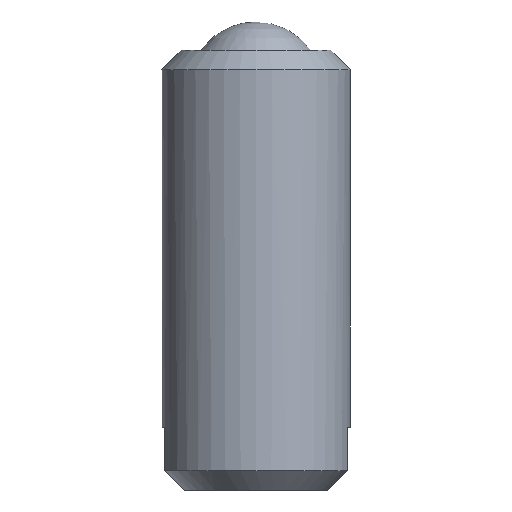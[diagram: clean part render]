
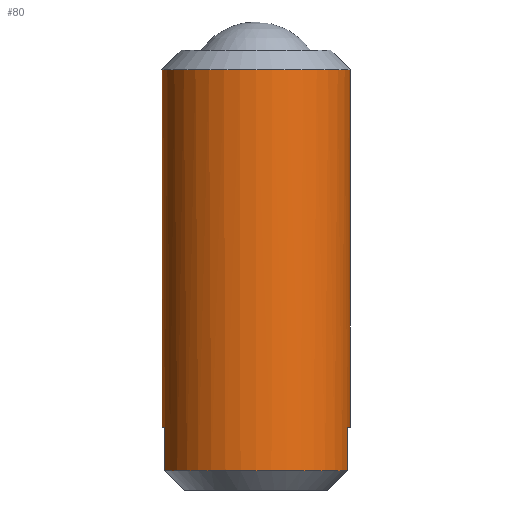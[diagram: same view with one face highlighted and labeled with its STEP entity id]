
A CAD part, front view. The second image highlights one B-rep face of the part: STEP entity #80.
In plain terms, the highlighted cylindrical face has radius 3 mm (diameter 6 mm), a full revolution.
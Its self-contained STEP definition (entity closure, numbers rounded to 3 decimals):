
#80 = ADVANCED_FACE( '', ( #100, #101 ), #102, .T. );
#100 = FACE_OUTER_BOUND( '', #126, .T. );
#101 = FACE_OUTER_BOUND( '', #127, .T. );
#102 = CYLINDRICAL_SURFACE( '', #128, 3. );
#126 = EDGE_LOOP( '', ( #172 ) );
#127 = EDGE_LOOP( '', ( #173, #174, #175, #176, #177, #178, #179, #180 ) );
#128 = AXIS2_PLACEMENT_3D( '', #181, #182, #183 );
#172 = ORIENTED_EDGE( '', *, *, #230, .F. );
#173 = ORIENTED_EDGE( '', *, *, #224, .F. );
#174 = ORIENTED_EDGE( '', *, *, #231, .T. );
#175 = ORIENTED_EDGE( '', *, *, #216, .F. );
#176 = ORIENTED_EDGE( '', *, *, #232, .T. );
#177 = ORIENTED_EDGE( '', *, *, #218, .F. );
#178 = ORIENTED_EDGE( '', *, *, #233, .T. );
#179 = ORIENTED_EDGE( '', *, *, #222, .F. );
#180 = ORIENTED_EDGE( '', *, *, #234, .T. );
#181 = CARTESIAN_POINT( '', ( 0., 0., 0.9 ) );
#182 = DIRECTION( '', ( 0., 0., -1. ) );
#183 = DIRECTION( '', ( 1., 0., 0. ) );
#216 = EDGE_CURVE( '', #238, #240, #241, .T. );
#218 = EDGE_CURVE( '', #242, #244, #245, .F. );
#222 = EDGE_CURVE( '', #250, #252, #253, .T. );
#224 = EDGE_CURVE( '', #254, #256, #257, .F. );
#230 = EDGE_CURVE( '', #265, #265, #266, .T. );
#231 = EDGE_CURVE( '', #254, #240, #267, .T. );
#232 = EDGE_CURVE( '', #238, #244, #268, .T. );
#233 = EDGE_CURVE( '', #242, #252, #269, .T. );
#234 = EDGE_CURVE( '', #250, #256, #270, .T. );
#238 = VERTEX_POINT( '', #274 );
#240 = VERTEX_POINT( '', #279 );
#241 = LINE( '', #280, #281 );
#242 = VERTEX_POINT( '', #282 );
#244 = VERTEX_POINT( '', #285 );
#245 = LINE( '', #286, #287 );
#250 = VERTEX_POINT( '', #296 );
#252 = VERTEX_POINT( '', #301 );
#253 = LINE( '', #302, #303 );
#254 = VERTEX_POINT( '', #304 );
#256 = VERTEX_POINT( '', #307 );
#257 = LINE( '', #308, #309 );
#265 = VERTEX_POINT( '', #321 );
#266 = CIRCLE( '', #322, 3. );
#267 = CIRCLE( '', #323, 3. );
#268 = CIRCLE( '', #324, 3. );
#269 = CIRCLE( '', #325, 3. );
#270 = CIRCLE( '', #326, 3. );
#274 = CARTESIAN_POINT( '', ( -2.905, -0.75, -13.387 ) );
#279 = CARTESIAN_POINT( '', ( -2.905, -0.75, -12. ) );
#280 = CARTESIAN_POINT( '', ( -2.905, -0.75, 0.9 ) );
#281 = VECTOR( '', #329, 1000. );
#282 = CARTESIAN_POINT( '', ( 2.905, -0.75, -12. ) );
#285 = CARTESIAN_POINT( '', ( 2.905, -0.75, -13.387 ) );
#286 = CARTESIAN_POINT( '', ( 2.905, -0.75, 0.9 ) );
#287 = VECTOR( '', #331, 1000. );
#296 = CARTESIAN_POINT( '', ( 2.905, 0.75, -13.387 ) );
#301 = CARTESIAN_POINT( '', ( 2.905, 0.75, -12. ) );
#302 = CARTESIAN_POINT( '', ( 2.905, 0.75, 0.9 ) );
#303 = VECTOR( '', #333, 1000. );
#304 = CARTESIAN_POINT( '', ( -2.905, 0.75, -12. ) );
#307 = CARTESIAN_POINT( '', ( -2.905, 0.75, -13.387 ) );
#308 = CARTESIAN_POINT( '', ( -2.905, 0.75, 0.9 ) );
#309 = VECTOR( '', #335, 1000. );
#321 = CARTESIAN_POINT( '', ( 3., 0., -0.613 ) );
#322 = AXIS2_PLACEMENT_3D( '', #343, #344, #345 );
#323 = AXIS2_PLACEMENT_3D( '', #346, #347, #348 );
#324 = AXIS2_PLACEMENT_3D( '', #349, #350, #351 );
#325 = AXIS2_PLACEMENT_3D( '', #352, #353, #354 );
#326 = AXIS2_PLACEMENT_3D( '', #355, #356, #357 );
#329 = DIRECTION( '', ( 0., 0., 1. ) );
#331 = DIRECTION( '', ( 0., 0., 1. ) );
#333 = DIRECTION( '', ( 0., 0., 1. ) );
#335 = DIRECTION( '', ( 0., 0., 1. ) );
#343 = CARTESIAN_POINT( '', ( 0., 0., -0.613 ) );
#344 = DIRECTION( '', ( 0., 0., 1. ) );
#345 = DIRECTION( '', ( 1., 0., 0. ) );
#346 = CARTESIAN_POINT( '', ( 0., 0., -12. ) );
#347 = DIRECTION( '', ( 0., 0., 1. ) );
#348 = DIRECTION( '', ( 1., 0., 0. ) );
#349 = CARTESIAN_POINT( '', ( 0., 0., -13.387 ) );
#350 = DIRECTION( '', ( 0., 0., 1. ) );
#351 = DIRECTION( '', ( 1., 0., 0. ) );
#352 = CARTESIAN_POINT( '', ( 0., 0., -12. ) );
#353 = DIRECTION( '', ( 0., 0., 1. ) );
#354 = DIRECTION( '', ( 1., 0., 0. ) );
#355 = CARTESIAN_POINT( '', ( 0., 0., -13.387 ) );
#356 = DIRECTION( '', ( 0., 0., 1. ) );
#357 = DIRECTION( '', ( 1., 0., 0. ) );
